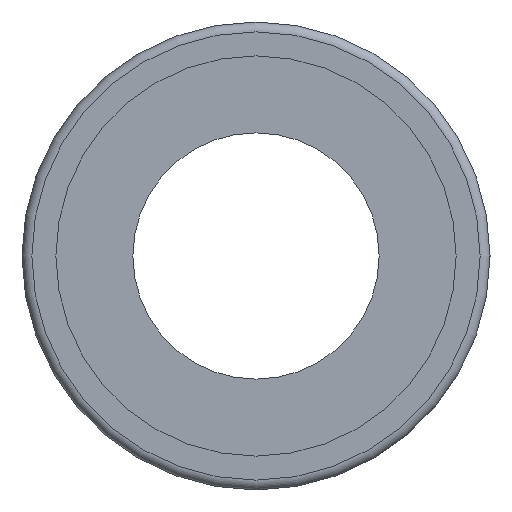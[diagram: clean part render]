
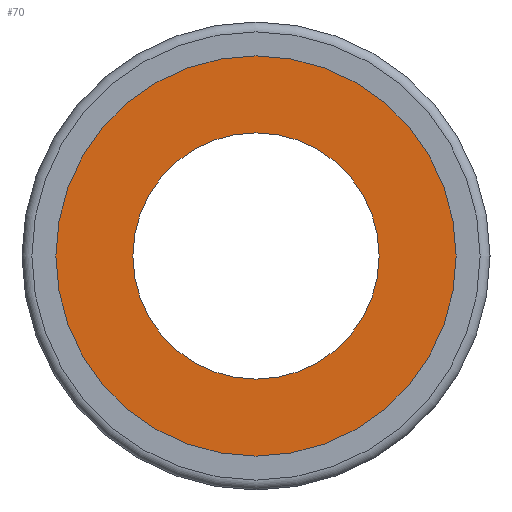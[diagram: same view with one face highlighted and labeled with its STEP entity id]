
A CAD part, left-side view. The second image highlights one B-rep face of the part: STEP entity #70.
In plain terms, the highlighted planar face has unit normal (-1, 0, 0).
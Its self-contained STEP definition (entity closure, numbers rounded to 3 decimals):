
#70 = ADVANCED_FACE( '', ( #151, #152 ), #153, .T. );
#151 = FACE_BOUND( '', #230, .T. );
#152 = FACE_OUTER_BOUND( '', #231, .T. );
#153 = PLANE( '', #232 );
#230 = EDGE_LOOP( '', ( #331 ) );
#231 = EDGE_LOOP( '', ( #332 ) );
#232 = AXIS2_PLACEMENT_3D( '', #333, #334, #335 );
#331 = ORIENTED_EDGE( '', *, *, #356, .F. );
#332 = ORIENTED_EDGE( '', *, *, #358, .T. );
#333 = CARTESIAN_POINT( '', ( 2.75, 6.563, 0. ) );
#334 = DIRECTION( '', ( -1., 0., 0. ) );
#335 = DIRECTION( '', ( 0., 1., 0. ) );
#356 = EDGE_CURVE( '', #393, #393, #394, .T. );
#358 = EDGE_CURVE( '', #396, #396, #397, .T. );
#393 = VERTEX_POINT( '', #447 );
#394 = CIRCLE( '', #448, 5. );
#396 = VERTEX_POINT( '', #450 );
#397 = CIRCLE( '', #451, 8.125 );
#447 = CARTESIAN_POINT( '', ( 2.75, 0., 5. ) );
#448 = AXIS2_PLACEMENT_3D( '', #501, #502, #503 );
#450 = CARTESIAN_POINT( '', ( 2.75, 0., 8.125 ) );
#451 = AXIS2_PLACEMENT_3D( '', #504, #505, #506 );
#501 = CARTESIAN_POINT( '', ( 2.75, 0., 0. ) );
#502 = DIRECTION( '', ( -1., 0., 0. ) );
#503 = DIRECTION( '', ( 0., 0., 1. ) );
#504 = CARTESIAN_POINT( '', ( 2.75, 0., 0. ) );
#505 = DIRECTION( '', ( -1., 0., 0. ) );
#506 = DIRECTION( '', ( 0., 0., 1. ) );
